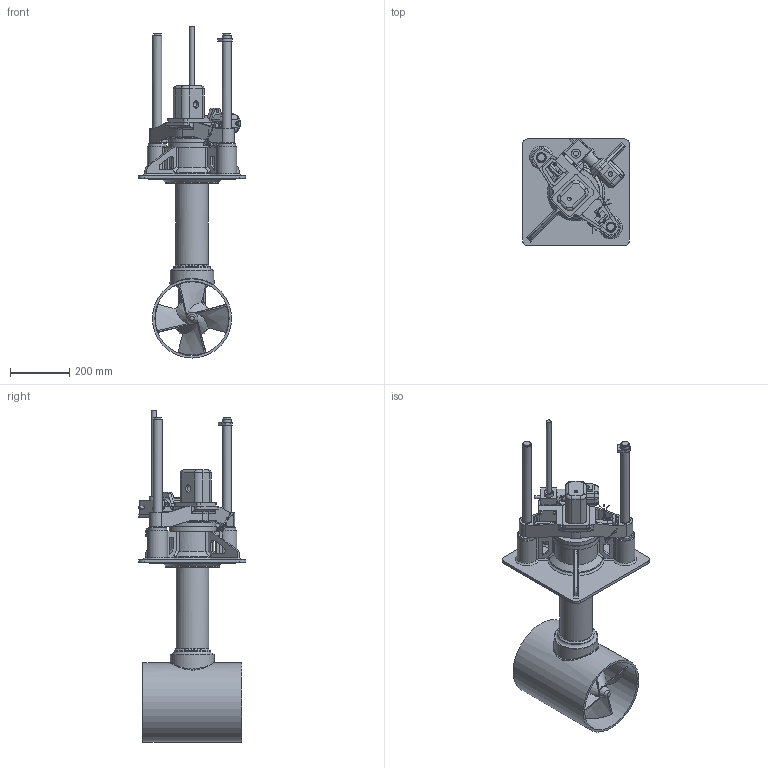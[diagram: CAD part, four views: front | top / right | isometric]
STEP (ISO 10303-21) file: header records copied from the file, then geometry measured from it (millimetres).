
FILE_DESCRIPTION(/* description */ (''),/* implementation_level */ '2;1');
FILE_NAME(/* name */ 'Q:\THRUSTERS\THRUSTER SALES & SUPPORT DOCS\THRUSTER Sales\H-V\H-0250-V\H-0250-V-DEPLOYED.stp',/* time_stamp */ '2020-03-03T11:54:29+00:00',/* author */ ('charlotte.richardson'),/* organization */ (''),/* preprocessor_version */ 'ST-DEVELOPER v17',/* originating_system */ 'Autodesk Inventor 2019',/* authorisation */ '');
FILE_SCHEMA (('AUTOMOTIVE_DESIGN { 1 0 10303 214 3 1 1 }'));
Length unit declared in the file: millimetre
Products named in the file (1): H-0250-V_Shrinkwrap_2
Bounding box: 360 x 362.41 x 1116.4 mm (x, y, z)
Volume: 11500392.2 mm3; surface area: 2243572 mm2
Topology: 7 solids, 7 shells, 2069 faces, 5669 edges, 3682 vertices
Faces by surface type: plane 1098, cylinder 723, cone 141, bspline 92, torus 11, sphere 4
Full cylindrical faces by diameter (mm): 1.15 x6, 1.35 x5, 1.8 x5, 2 x8, 3.386 x1, 3.4 x3, 3.7 x2, 4 x2, 6 x10, 6.4 x2, 8 x6, 9 x2, 10 x6, 10.3 x2, 11.445 x1, 11.8 x1, 12.7 x1, 14 x1, 14.95 x2, 15 x1, 16 x1, 16.2 x1, 20 x4, 24.5 x2, 25 x4, 26 x1, 29.58 x2, 30 x10, 31.75 x1, 34 x4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
Entity records: 80963 total; most frequent: CARTESIAN_POINT 26206, ORIENTED_EDGE 11306, DIRECTION 10795, EDGE_CURVE 5653, AXIS2_PLACEMENT_3D 3865, VERTEX_POINT 3682, LINE 3065, VECTOR 3065
